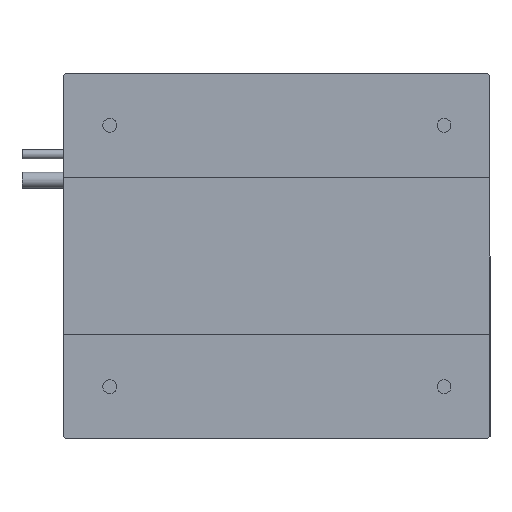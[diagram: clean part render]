
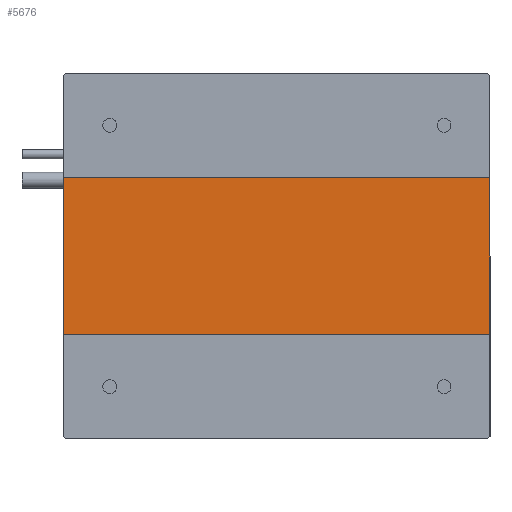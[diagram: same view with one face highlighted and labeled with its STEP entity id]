
A CAD part, front view. The second image highlights one B-rep face of the part: STEP entity #5676.
In plain terms, the highlighted planar face has unit normal (0, -1, 0).
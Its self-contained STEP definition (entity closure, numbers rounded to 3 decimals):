
#77 = ORIENTED_EDGE ( 'NONE', *, *, #1042, .T. ) ;
#102 = VECTOR ( 'NONE', #813, 1000. ) ;
#136 = VECTOR ( 'NONE', #1165, 1000. ) ;
#138 = DIRECTION ( 'NONE',  ( 0., 0., 1. ) ) ;
#150 = DIRECTION ( 'NONE',  ( 0., 1., 0. ) ) ;
#209 = PLANE ( 'NONE',  #3100 ) ;
#316 = EDGE_CURVE ( 'NONE', #2091, #2330, #4619, .T. ) ;
#326 = LINE ( 'NONE', #792, #102 ) ;
#333 = CARTESIAN_POINT ( 'NONE',  ( 0., 1., 37.5 ) ) ;
#442 = DIRECTION ( 'NONE',  ( -1., 0., 0. ) ) ;
#792 = CARTESIAN_POINT ( 'NONE',  ( 0., 1., -37.5 ) ) ;
#813 = DIRECTION ( 'NONE',  ( 0., 0., -1. ) ) ;
#1042 = EDGE_CURVE ( 'NONE', #2371, #4723, #1706, .T. ) ;
#1165 = DIRECTION ( 'NONE',  ( 0., 0., 1. ) ) ;
#1175 = LINE ( 'NONE', #1180, #136 ) ;
#1180 = CARTESIAN_POINT ( 'NONE',  ( 204., 1., -37.5 ) ) ;
#1323 = CARTESIAN_POINT ( 'NONE',  ( 0., 1., -37.5 ) ) ;
#1503 = VECTOR ( 'NONE', #442, 1000. ) ;
#1601 = FACE_OUTER_BOUND ( 'NONE', #2579, .T. ) ;
#1706 = LINE ( 'NONE', #4869, #1503 ) ;
#2091 = VERTEX_POINT ( 'NONE', #1323 ) ;
#2328 = CARTESIAN_POINT ( 'NONE',  ( 0., 1., 37.5 ) ) ;
#2330 = VERTEX_POINT ( 'NONE', #4861 ) ;
#2371 = VERTEX_POINT ( 'NONE', #4392 ) ;
#2579 = EDGE_LOOP ( 'NONE', ( #3267, #5040, #5369, #77 ) ) ;
#3100 = AXIS2_PLACEMENT_3D ( 'NONE', #333, #150, #138 ) ;
#3249 = EDGE_CURVE ( 'NONE', #4723, #2091, #326, .T. ) ;
#3267 = ORIENTED_EDGE ( 'NONE', *, *, #3249, .T. ) ;
#3349 = EDGE_CURVE ( 'NONE', #2330, #2371, #1175, .T. ) ;
#3392 = CARTESIAN_POINT ( 'NONE',  ( 0., 1., -37.5 ) ) ;
#4392 = CARTESIAN_POINT ( 'NONE',  ( 204., 1., 37.5 ) ) ;
#4494 = DIRECTION ( 'NONE',  ( 1., 0., 0. ) ) ;
#4562 = VECTOR ( 'NONE', #4494, 1000. ) ;
#4619 = LINE ( 'NONE', #3392, #4562 ) ;
#4723 = VERTEX_POINT ( 'NONE', #2328 ) ;
#4861 = CARTESIAN_POINT ( 'NONE',  ( 204., 1., -37.5 ) ) ;
#4869 = CARTESIAN_POINT ( 'NONE',  ( 0., 1., 37.5 ) ) ;
#5040 = ORIENTED_EDGE ( 'NONE', *, *, #316, .T. ) ;
#5369 = ORIENTED_EDGE ( 'NONE', *, *, #3349, .T. ) ;
#5676 = ADVANCED_FACE ( 'NONE', ( #1601 ), #209, .F. ) ;
